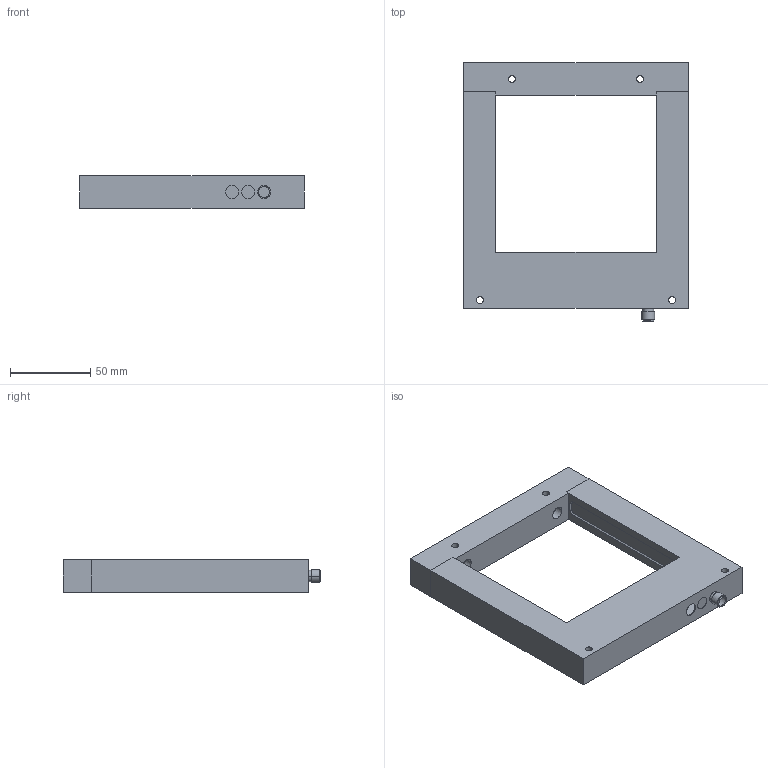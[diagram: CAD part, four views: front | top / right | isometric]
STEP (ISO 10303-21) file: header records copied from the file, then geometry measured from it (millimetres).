
FILE_DESCRIPTION(('STEP AP214'),'1');
FILE_NAME('Z:/Projekte/Webseite/Download/tmp0.step','2019-05-21T12:53:00',(' '),(' '),'Spatial InterOp 3D',' ',' ');
FILE_SCHEMA(('automotive_design'));
Length unit declared in the file: millimetre
Products named in the file (3): 12
Bounding box: 140 x 161 x 20 mm (x, y, z)
Volume: 52986.8 mm3; surface area: 45415 mm2
Topology: 1 solids, 48 shells, 79 faces, 324 edges, 292 vertices
Faces by surface type: plane 32, revolution 27, cylinder 20
Entity records: 4152 total; most frequent: CARTESIAN_POINT 766, DIRECTION 569, ORIENTED_EDGE 400, EDGE_CURVE 324, VERTEX_POINT 292, LINE 188, VECTOR 188, AXIS2_PLACEMENT_3D 177
